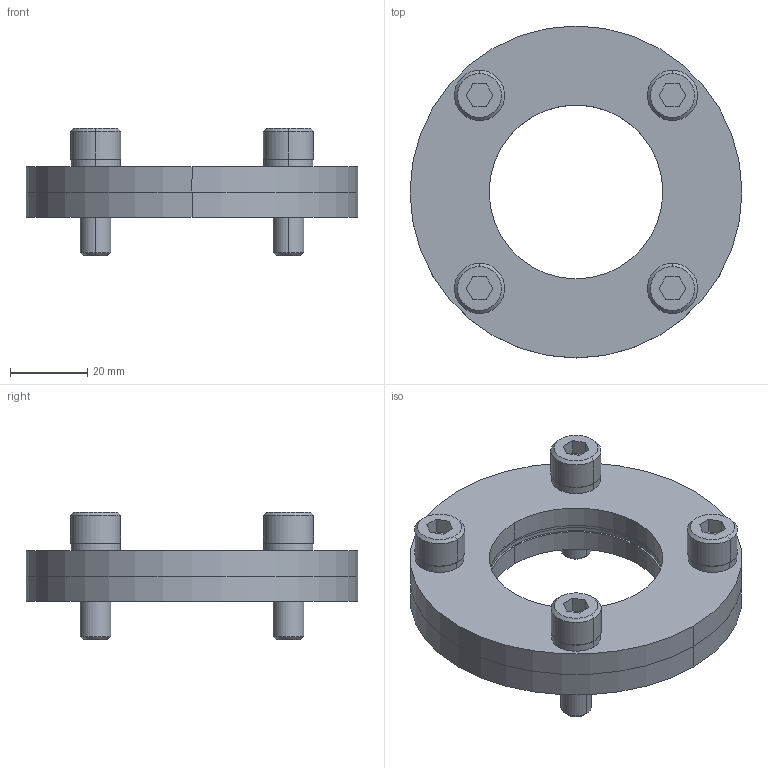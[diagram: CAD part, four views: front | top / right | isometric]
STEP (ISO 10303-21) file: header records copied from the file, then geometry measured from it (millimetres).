
FILE_DESCRIPTION(/* description */ (''),/* implementation_level */ '2;1');
FILE_NAME(/* name */ '3d_kf45_04241_r00.stp',/* time_stamp */ '2011-01-10T14:14:23+09:00',/* author */ ('MISUMI'),/* organization */ (''),/* preprocessor_version */ 'ST-DEVELOPER v11',/* originating_system */ 'UGS - NX 5.0',/* authorisation */ '');
FILE_SCHEMA (('CONFIG_CONTROL_DESIGN'));
Length unit declared in the file: millimetre
Products named in the file (1): 3d_kf45_04241_r00
Bounding box: 86 x 86 x 33 mm (x, y, z)
Volume: 60684 mm3; surface area: 28890.5 mm2
Topology: 10 solids, 10 shells, 130 faces, 284 edges, 184 vertices
Faces by surface type: cylinder 60, plane 54, cone 16
Entity records: 3720 total; most frequent: DIRECTION 682, CARTESIAN_POINT 599, ORIENTED_EDGE 568, EDGE_CURVE 284, AXIS2_PLACEMENT_3D 267, VERTEX_POINT 184, EDGE_LOOP 168, LINE 148
